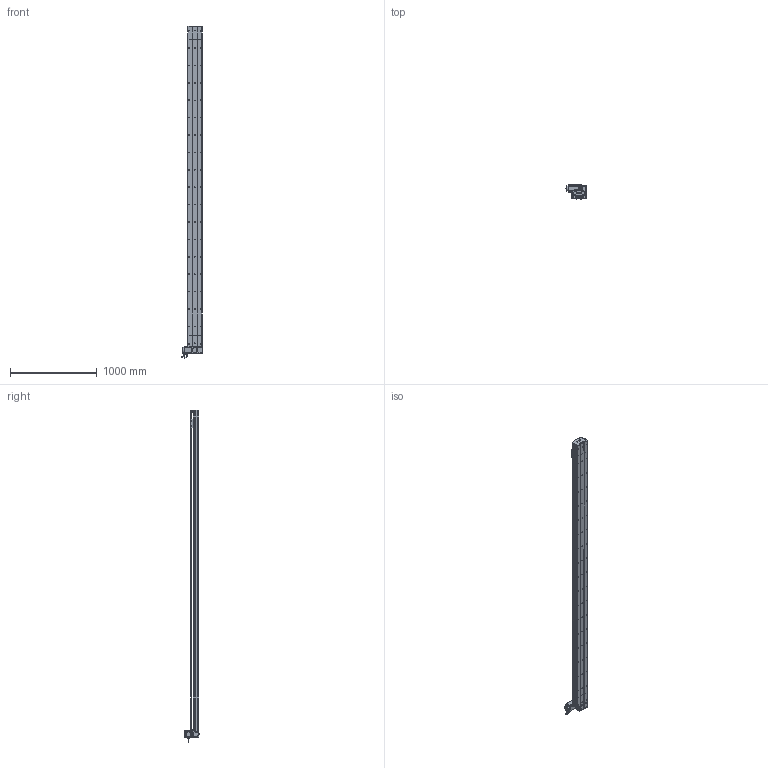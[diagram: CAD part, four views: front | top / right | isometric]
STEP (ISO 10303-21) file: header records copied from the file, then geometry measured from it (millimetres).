
FILE_DESCRIPTION (( 'STEP AP214' ), '1' );
FILE_NAME ('D17 TBN LT S3400.STEP', '2010-06-30T13:54:28', ( 'Conseil Régional Haute-Normandie' ), ( 'Conseil Régional Haute-Normandie' ), 'SwSTEP 2.0', 'SolidWorks 2010', '' );
FILE_SCHEMA (( 'AUTOMOTIVE_DESIGN' ));
Length unit declared in the file: millimetre
Products named in the file (40): avant 90BLDC125A-640; Vis M5 L16-2_Default; vis M5 L16_Default; Plaque racord D17_Default; Conecteur2_Default; codeur 90BLDC125-640; poulie tail_Default; plaque de  bout tail D17B_Default; Couroie tail D17B_Default; vis M5 L8 90°_Default; couvercle D17B_Default; corps 90BLDC125A-640; corpl tail D17B_Default; vis M5 L70_Default; Conecteur_Default; Tail D17B_Default; Rail D17B; tete d''axe poulie D17B; vis M5 L25_Default; vis M5 L12_Default; guide D17; Chariot D17 TBN; chariot D17 TBN; Arbre+rail head D17B; plaque de  bout head D17B LT_Default; course 3400 D17B_Default; couvercle D17B head_Default; corpl head D17 _Default; Head LT D17B_Default; couvercle D17B course L3400_Default; corp D17B 3400_Default; Couroie+ rail D17 Course 3400 ; Moteur motionking 90BLDC125A-640; vis M5 L5_Default; cache D17_Default; Renvoi LT_Default; couroie head D17_Default; cache arbre D17_Default; poulie head_Default; D17 TBN LT S3400
Assembly tree (66 placements, depth 4):
  D17 TBN LT S3400
    Head LT D17B_Default
      vis M5 L12_Default  x8
      corpl head D17 _Default
      vis M5 L70_Default  x4
      Renvoi LT_Default
      Moteur motionking 90BLDC125A-640
        codeur 90BLDC125-640
        avant 90BLDC125A-640
        Conecteur_Default
        Conecteur2_Default
        corps 90BLDC125A-640
      cache D17_Default  x2
      poulie head_Default
      couroie head D17_Default
      vis M5 L5_Default  x4
      vis M5 L16_Default  x2
      couvercle D17B head_Default
      Vis M5 L16-2_Default  x4
      vis M5 L25_Default  x2
      cache arbre D17_Default
      Arbre+rail head D17B
      plaque de  bout head D17B LT_Default
      Plaque racord D17_Default
    Tail D17B_Default
      plaque de  bout tail D17B_Default
      couvercle D17B_Default
      vis M5 L12_Default  x4
      tete d''axe poulie D17B
      corpl tail D17B_Default
      vis M5 L25_Default  x2
      poulie tail_Default
      Couroie tail D17B_Default
      Rail D17B
      vis M5 L8 90°_Default  x2
    chariot D17 TBN
      guide D17  x2
      Chariot D17 TBN
    course 3400 D17B_Default
      Couroie+ rail D17 Course 3400 
      couvercle D17B course L3400_Default
      corp D17B 3400_Default
Bounding box: 245.2 x 166.15 x 3817.95 mm (x, y, z)
Volume: 21388126.6 mm3; surface area: 6274158.9 mm2
Topology: 89 solids, 89 shells, 2675 faces, 6913 edges, 4454 vertices
Faces by surface type: plane 1533, cylinder 845, bspline 136, cone 80, torus 77, sphere 4
Entity records: 87419 total; most frequent: CARTESIAN_POINT 25831, ORIENTED_EDGE 10998, DIRECTION 10372, EDGE_CURVE 5499, VERTEX_POINT 3598, LINE 3554, VECTOR 3554, AXIS2_PLACEMENT_3D 3409
